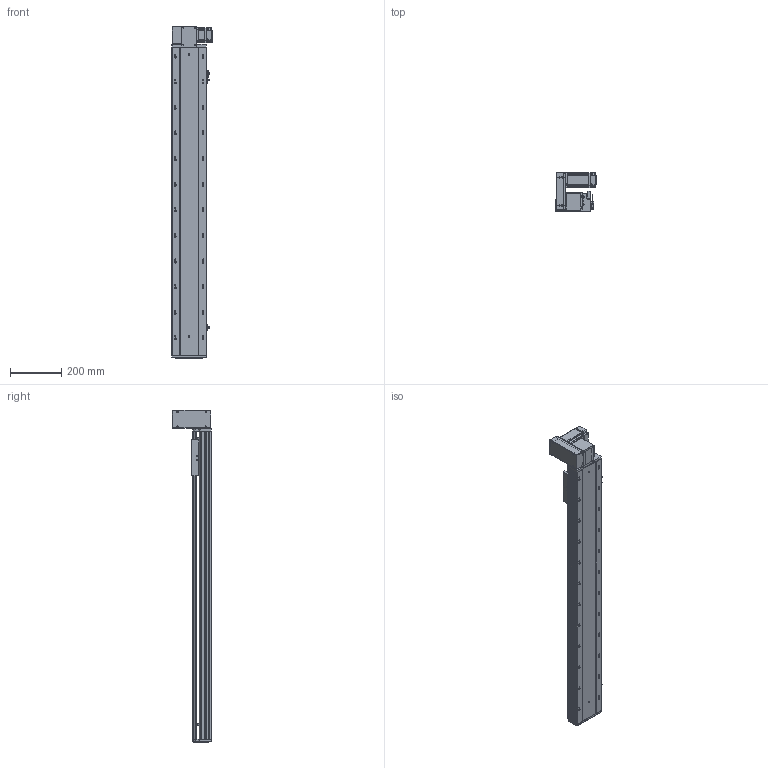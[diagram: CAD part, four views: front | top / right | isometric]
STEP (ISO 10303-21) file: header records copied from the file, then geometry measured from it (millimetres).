
FILE_DESCRIPTION (( 'STEP AP203' ), '1' );
FILE_NAME ('RY140-T-300-UL.SLDASM_950.step', '2021-03-01T07:43:46', ( '盈信电脑' ), ( '东莞市道滘镇水果街19号' ), 'SwSTEP 2.0', 'SolidWorks 2012', '' );
FILE_SCHEMA (( 'CONFIG_CONTROL_DESIGN' ));
Products named in the file (18): RY140-T-300-UL.SLDASM_950; RY140-T萇儂欶; RY140-T翋肮謫裔啣; 滅袉蝶18-10; RY120-T主同步轮轴承压盖; 15; RY120-T蹟翐M4; 侂狟400W侜督萇儂; RY120-T肮祭湍揤踡輸1; RY120-T肮祭湍揤踡輸2; RY140-T翋肮祭謫盓傅釱; RY140-T萇儂假蚾啣; RY120外置感应片(140共用）; RY140肮祭謫臏賑輸; RY140綴裔啣; RY140-T-300-DL倰第奻裔啣_950; 覜茼ん672; RY140-T-300-DL倰第菁釱_950
Assembly tree (23 placements, depth 3):
  RY140-T-300-UL.SLDASM_950
    RY140-T-300-DL倰第菁釱_950
    RY140肮祭謫臏賑輸
    RY140-T-300-DL倰第奻裔啣_950
    RY140綴裔啣
    覜茼ん672  x3
    RY120外置感应片(140共用）
    RY120-T肮祭湍揤踡輸2
    RY120-T肮祭湍揤踡輸1
    RY140-T翋肮祭謫盓傅釱
    RY140-T萇儂假蚾啣
    侂狟400W侜督萇儂
      15
    RY120-T主同步轮轴承压盖
    RY120-T蹟翐M4  x4
    RY140-T萇儂欶
    滅袉蝶18-10  x2
    RY140-T翋肮謫裔啣
Bounding box: 157 x 152.5 x 1296 mm (x, y, z)
Volume: 3869593.1 mm3; surface area: 1476772 mm2
Topology: 22 solids, 22 shells, 2743 faces, 7577 edges, 4868 vertices
Faces by surface type: plane 1381, cylinder 1044, cone 218, bspline 100
Entity records: 87643 total; most frequent: CARTESIAN_POINT 21577, ORIENTED_EDGE 13642, DIRECTION 12877, EDGE_CURVE 6821, VERTEX_POINT 4467, LINE 4293, VECTOR 4293, AXIS2_PLACEMENT_3D 4292
